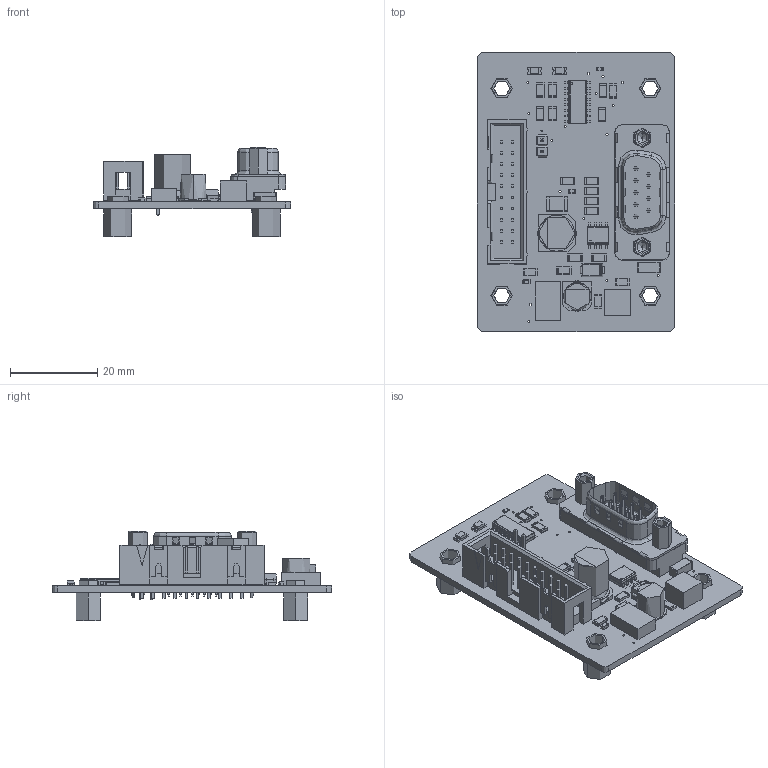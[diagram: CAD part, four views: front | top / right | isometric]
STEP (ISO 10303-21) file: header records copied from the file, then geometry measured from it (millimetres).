
FILE_DESCRIPTION (( 'STEP AP214' ), '1' );
FILE_NAME ('CL-ENCDR-DFIN.STEP', '2021-02-01T16:45:06', ( '' ), ( '' ), 'SwSTEP 2.0', 'SolidWorks 2020', '' );
FILE_SCHEMA (( 'AUTOMOTIVE_DESIGN' ));
Length unit declared in the file: inch
Products named in the file (1): CL-ENCDR-DFIN
Bounding box: 45.21 x 63.98 x 20.44 mm (x, y, z)
Topology: 0 solids, 149 shells, 3202 faces, 7675 edges, 4686 vertices
Faces by surface type: plane 2242, cylinder 768, sphere 92, bspline 44, cone 40, torus 16
Entity records: 136608 total; most frequent: CARTESIAN_POINT 19473, ORIENTED_EDGE 15115, DIRECTION 15103, EDGE_CURVE 7604, VECTOR 5575, LINE 5575, AXIS2_PLACEMENT_3D 4764, VERTEX_POINT 4687
